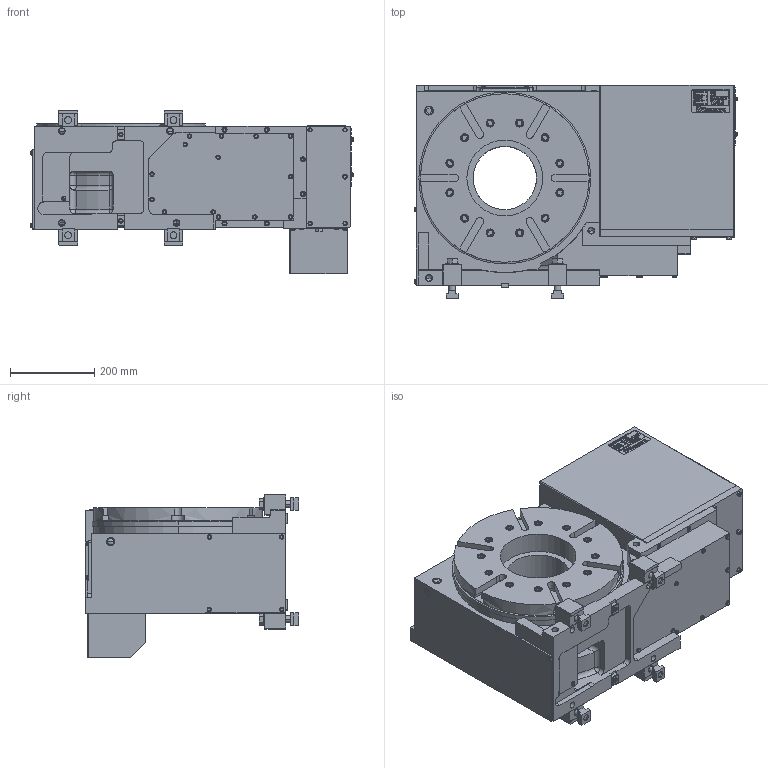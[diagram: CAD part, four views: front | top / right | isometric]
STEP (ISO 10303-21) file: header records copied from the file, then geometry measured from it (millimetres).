
FILE_DESCRIPTION (( 'STEP AP214' ), '1' );
FILE_NAME ('TR400H2F.STEP', '2020-03-02T02:25:36', ( '' ), ( '' ), 'SwSTEP 2.0', 'SolidWorks 2017', '' );
FILE_SCHEMA (( 'AUTOMOTIVE_DESIGN' ));
Length unit declared in the file: millimetre
Products named in the file (15): ガイドブロック(61M4197783); TR400H01僋儈僞僥(61E500777); オイルゲージ 207; テーブル(61E3387971)TR400H00; 儂儞僞僀ASSY(61E1129651)TR400H01; TR400H2F; CLAMPING PARTS(61E430706)結合; TR400H2F37儂儞僞僀; キタガワシール; KQ2E06-01; コネクタカバー（61E3639910）; コネクタプレート(61E446509); 僇僶乕丂俹(61E4458433)MR250RAM01; モータケース(61E281195)TR400H2F38旧61E273087; フランジ(61E273088)TR400H2F30
Assembly tree (18 placements, depth 4):
  TR400H2F
    TR400H2F37儂儞僞僀
      TR400H01僋儈僞僥(61E500777)
        儂儞僞僀ASSY(61E1129651)TR400H01
        テーブル(61E3387971)TR400H00
        オイルゲージ 207
      ガイドブロック(61M4197783)  x2
      フランジ(61E273088)TR400H2F30
      モータケース(61E281195)TR400H2F38旧61E273087
      僇僶乕丂俹(61E4458433)MR250RAM01
      コネクタプレート(61E446509)
      コネクタカバー（61E3639910）
      KQ2E06-01
      キタガワシール
    CLAMPING PARTS(61E430706)結合  x4
Bounding box: 765.6 x 506 x 389 mm (x, y, z)
Volume: 68682324.6 mm3; surface area: 2573628.4 mm2
Topology: 16 solids, 16 shells, 3131 faces, 8126 edges, 5268 vertices
Faces by surface type: plane 2249, cylinder 622, cone 147, torus 89, sphere 16, bspline 8
Entity records: 102671 total; most frequent: CARTESIAN_POINT 16831, ORIENTED_EDGE 15288, DIRECTION 15036, EDGE_CURVE 7644, LINE 6074, VECTOR 6074, VERTEX_POINT 4987, AXIS2_PLACEMENT_3D 4481
